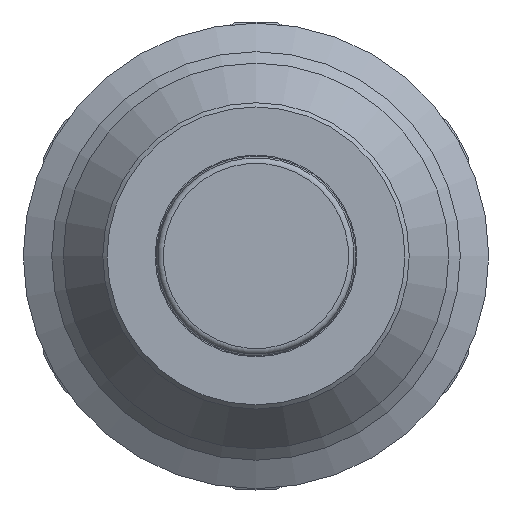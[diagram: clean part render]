
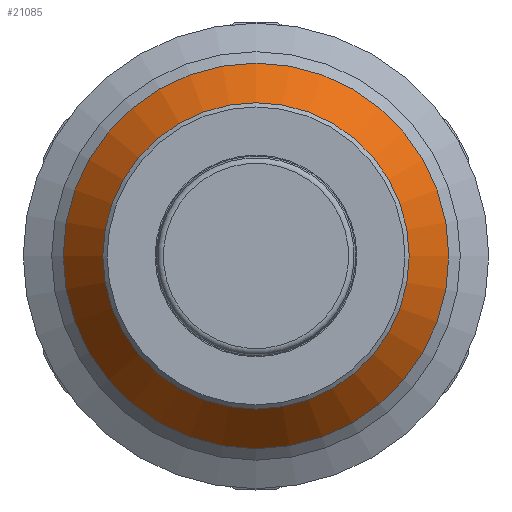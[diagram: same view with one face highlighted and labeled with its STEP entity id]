
A CAD part, front view. The second image highlights one B-rep face of the part: STEP entity #21085.
In plain terms, the highlighted conical face has half-angle 36.001 degrees and reference radius 20.325 mm.
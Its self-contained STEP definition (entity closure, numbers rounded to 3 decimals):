
#50=CONICAL_SURFACE('',#21875,20.325,0.628);
#2164=FACE_OUTER_BOUND('',#3292,.T.);
#3292=EDGE_LOOP('',(#18829,#18830,#18831,#18832));
#5988=LINE('',#46499,#7209);
#7209=VECTOR('',#24623,20.325);
#7464=CIRCLE('',#21635,18.);
#7576=CIRCLE('',#21876,22.65);
#8752=VERTEX_POINT('',#36430);
#9623=VERTEX_POINT('',#46497);
#11389=EDGE_CURVE('',#8752,#8752,#7464,.T.);
#12696=EDGE_CURVE('',#9623,#9623,#7576,.T.);
#12697=EDGE_CURVE('',#9623,#8752,#5988,.T.);
#18829=ORIENTED_EDGE('',*,*,#12696,.F.);
#18830=ORIENTED_EDGE('',*,*,#12697,.T.);
#18831=ORIENTED_EDGE('',*,*,#11389,.T.);
#18832=ORIENTED_EDGE('',*,*,#12697,.F.);
#21085=ADVANCED_FACE('',(#2164),#50,.T.);
#21635=AXIS2_PLACEMENT_3D('',#36431,#23645,#23646);
#21875=AXIS2_PLACEMENT_3D('',#46496,#24619,#24620);
#21876=AXIS2_PLACEMENT_3D('',#46498,#24621,#24622);
#23645=DIRECTION('center_axis',(0.,1.,0.));
#23646=DIRECTION('ref_axis',(1.,0.,0.));
#24619=DIRECTION('center_axis',(0.,1.,0.));
#24620=DIRECTION('ref_axis',(-1.,0.,0.));
#24621=DIRECTION('center_axis',(0.,1.,0.));
#24622=DIRECTION('ref_axis',(1.,0.,0.));
#24623=DIRECTION('',(-0.588,-0.809,0.));
#36430=CARTESIAN_POINT('',(18.,-11.25,0.));
#36431=CARTESIAN_POINT('Origin',(0.,-11.25,0.));
#46496=CARTESIAN_POINT('Origin',(0.,-8.05,0.));
#46497=CARTESIAN_POINT('',(22.65,-4.85,0.));
#46498=CARTESIAN_POINT('Origin',(0.,-4.85,0.));
#46499=CARTESIAN_POINT('',(20.325,-8.05,0.));
